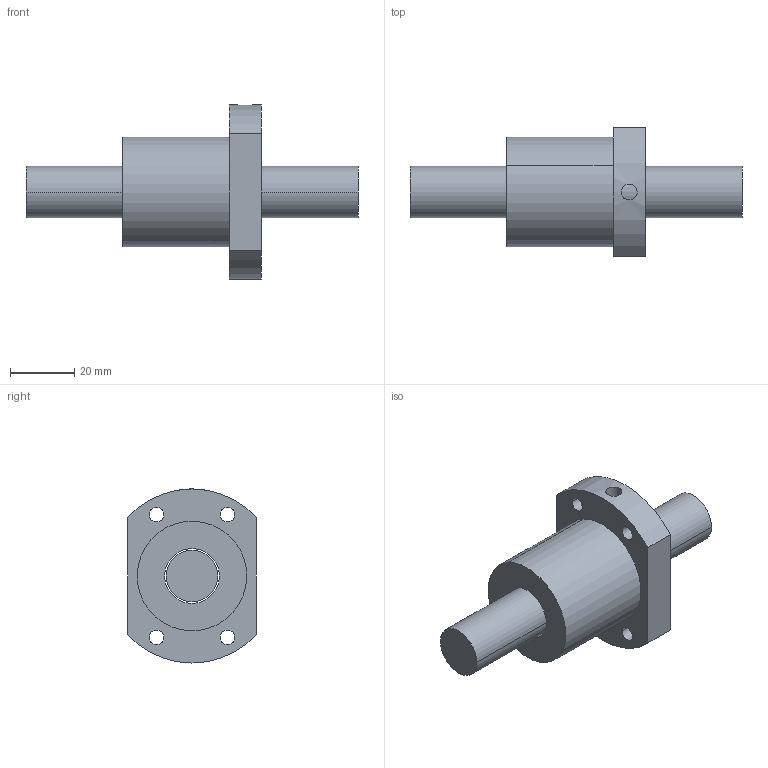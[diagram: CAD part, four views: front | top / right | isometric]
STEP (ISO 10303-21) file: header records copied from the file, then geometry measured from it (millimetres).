
FILE_DESCRIPTION(('CATIA V5 STEP Exchange'),'2;1');
FILE_NAME('C:\Users\aa\Documents\이댈\볼스크류\SFB\완성품\SFB1605D.stp','2019-07-25T00:28:26+00:00',('none'),('none'),'CATIA Version 5 Release 20 SP 7 (IN-10)','CATIA V5 STEP AP203','none');
FILE_SCHEMA(('CONFIG_CONTROL_DESIGN'));
Length unit declared in the file: millimetre
Products named in the file (1): SFB1605D
Bounding box: 103 x 40 x 54 mm (x, y, z)
Volume: 59339.6 mm3; surface area: 17144.6 mm2
Topology: 2 solids, 2 shells, 25 faces, 60 edges, 40 vertices
Faces by surface type: cylinder 18, plane 7
Entity records: 775 total; most frequent: CARTESIAN_POINT 167, ORIENTED_EDGE 120, DIRECTION 88, EDGE_CURVE 60, AXIS2_PLACEMENT_3D 49, VERTEX_POINT 40, EDGE_LOOP 38, CIRCLE 32
